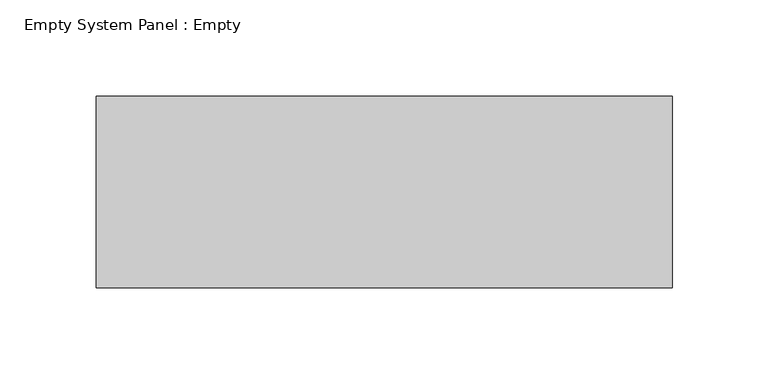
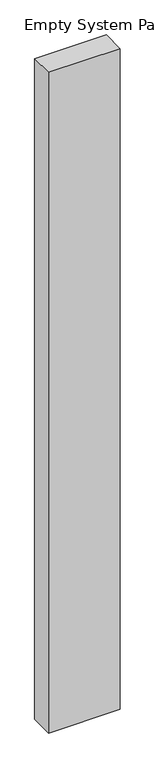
"""IFC4 building model written with IfcOpenShell, lengths in millimetres: plate geometry, Empty System Panel : Empty."""

from ifc_helpers import new_model, si_unit, origin, origin_with_axes, place, context, project, spatial, polyline, outline, extrude, source, transform, mapped, element, save


def empty_system_panel_empty_eacbfc0b(model_context):
    return source(origin(), model_context, "Body", "SweptSolid", [
        extrude(outline(polyline([(150.0, -50.0), (-150.0, -50.0), (-150.0, 50.0), (150.0, 50.0), (150.0, -50.0)])), origin_with_axes(), (0.0, 0.0, 1.0), 2925.0),
    ])


if __name__ == "__main__":
    model = new_model("IFC4")
    model_context = context("Model", 3, world=origin())
    ifc_project = project(units=[si_unit("LENGTHUNIT", "METRE", prefix="MILLI")], contexts=[model_context])
    site = spatial("IfcSite", under=ifc_project)
    building = spatial("IfcBuilding", under=site)
    placement = place(None, origin())
    empty_system_panel_empty_shape = empty_system_panel_empty_eacbfc0b(model_context)
    element("IfcPlate", 1, ObjectType="Empty System Panel : Empty", at=placement, inside=building, context=model_context, shape_type="MappedRepresentation", body=[
        mapped(empty_system_panel_empty_shape, transform((0.0, 0.0, 0.0), x_axis=(1.0, 0.0, 0.0), y_axis=(0.0, 1.0, 0.0), z_axis=(0.0, 0.0, 1.0))),
    ])
    save(model, "model.ifc")
